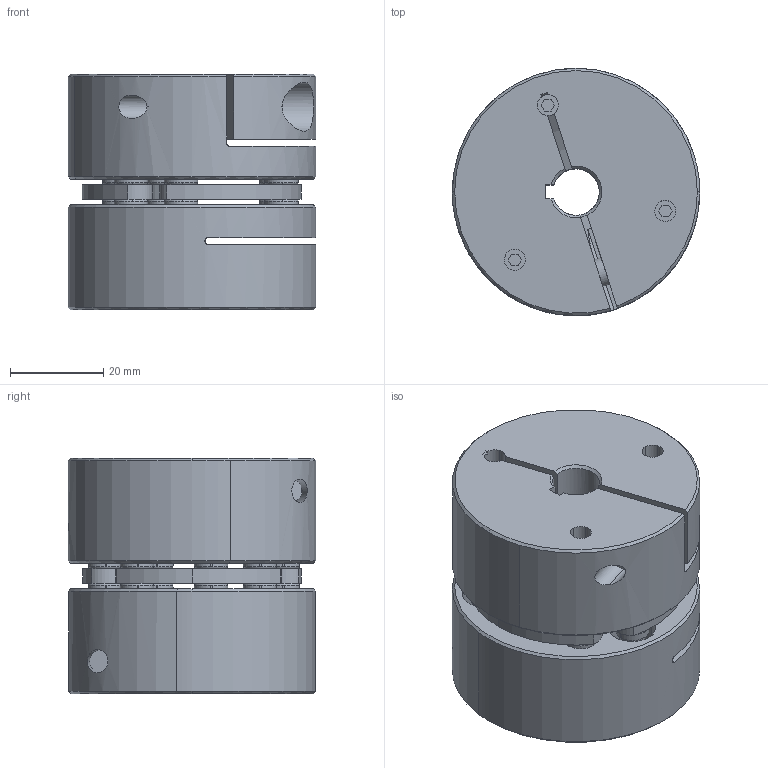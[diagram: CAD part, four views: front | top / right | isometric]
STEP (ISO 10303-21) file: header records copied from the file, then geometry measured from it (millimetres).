
FILE_DESCRIPTION((''),'2;1');
FILE_NAME('6A18-A1C','2019-02-14T',('SYSTEM'),(''),'PRO/ENGINEER BY PARAMETRIC TECHNOLOGY CORPORATION, 2016360','PRO/ENGINEER BY PARAMETRIC TECHNOLOGY CORPORATION, 2016360','');
FILE_SCHEMA(('AUTOMOTIVE_DESIGN { 1 0 10303 214 1 1 1 1 }'));
Length unit declared in the file: inch
Products named in the file (1): 6A18-A1C
Bounding box: 53 x 53 x 50.49 mm (x, y, z)
Volume: 89695.4 mm3; surface area: 32906.3 mm2
Topology: 1 solids, 13 shells, 645 faces, 1803 edges, 1218 vertices
Faces by surface type: cylinder 313, plane 148, cone 128, torus 56
Entity records: 27517 total; most frequent: CARTESIAN_POINT 4103, DIRECTION 4101, ORIENTED_EDGE 3570, PRESENTATION_STYLE_ASSIGNMENT 1825, STYLED_ITEM 1786, CURVE_STYLE 1785, EDGE_CURVE 1785, AXIS2_PLACEMENT_3D 1733
